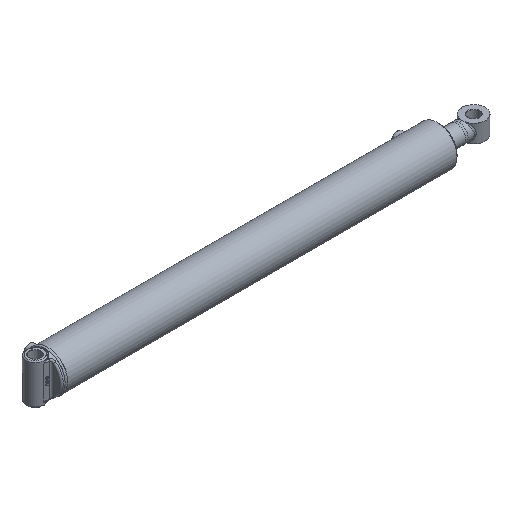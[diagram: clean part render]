
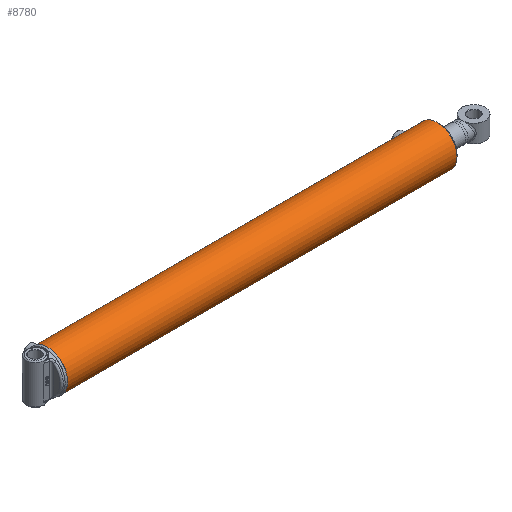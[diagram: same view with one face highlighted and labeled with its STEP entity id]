
A CAD part, isometric view. The second image highlights one B-rep face of the part: STEP entity #8780.
In plain terms, the highlighted cylindrical face has radius 56.356 mm (diameter 112.712 mm), a full revolution.
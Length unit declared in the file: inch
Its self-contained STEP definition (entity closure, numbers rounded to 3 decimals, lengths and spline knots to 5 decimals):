
#808=B_SPLINE_CURVE_WITH_KNOTS('',3,(#13133,#13134,#13135,#13136,#13137,
#13138,#13139,#13140,#13141,#13142),.UNSPECIFIED.,.F.,.F.,(4,2,2,2,4),(0.,
0.23942,0.47883,0.71824,0.95766),
 .UNSPECIFIED.);
#809=B_SPLINE_CURVE_WITH_KNOTS('',3,(#13143,#13144,#13145,#13146,#13147,
#13148,#13149,#13150,#13151,#13152,#13153,#13154,#13155,#13156,#13157,#13158,
#13159,#13160,#13161,#13162,#13163,#13164,#13165,#13166,#13167,#13168),
 .UNSPECIFIED.,.F.,.F.,(4,2,2,2,2,2,2,2,2,2,2,2,4),(0.95766,1.19707,
1.43649,1.6759,1.91532,2.15473,2.39415,
2.63356,2.87297,3.11239,3.3518,3.59122,
3.83063),.UNSPECIFIED.);
#810=B_SPLINE_CURVE_WITH_KNOTS('',3,(#13173,#13174,#13175,#13176,#13177,
#13178,#13179,#13180,#13181,#13182),.UNSPECIFIED.,.F.,.F.,(4,2,2,2,4),(0.,
0.23942,0.47883,0.71824,0.95766),
 .UNSPECIFIED.);
#811=B_SPLINE_CURVE_WITH_KNOTS('',3,(#13183,#13184,#13185,#13186,#13187,
#13188,#13189,#13190,#13191,#13192,#13193,#13194,#13195,#13196,#13197,#13198,
#13199,#13200,#13201,#13202,#13203,#13204,#13205,#13206,#13207,#13208),
 .UNSPECIFIED.,.F.,.F.,(4,2,2,2,2,2,2,2,2,2,2,2,4),(0.95766,1.19707,
1.43649,1.6759,1.91532,2.15473,2.39415,
2.63356,2.87297,3.11239,3.3518,3.59122,
3.83063),.UNSPECIFIED.);
#1096=FACE_BOUND('',#2595,.T.);
#1097=FACE_BOUND('',#2596,.T.);
#1352=LINE('',#13244,#1693);
#1693=VECTOR('',#10661,2.21875);
#2031=CYLINDRICAL_SURFACE('',#9525,2.21875);
#2119=FACE_OUTER_BOUND('',#2594,.T.);
#2594=EDGE_LOOP('',(#6139,#6140,#6141,#6142,#6143,#6144));
#2595=EDGE_LOOP('',(#6145,#6146));
#2596=EDGE_LOOP('',(#6147,#6148));
#3157=CIRCLE('',#9522,2.21875);
#3159=CIRCLE('',#9524,2.21875);
#3160=CIRCLE('',#9526,2.21875);
#3161=CIRCLE('',#9527,2.21875);
#3801=VERTEX_POINT('',#13130);
#3802=VERTEX_POINT('',#13132);
#3803=VERTEX_POINT('',#13170);
#3804=VERTEX_POINT('',#13172);
#3815=VERTEX_POINT('',#13237);
#3816=VERTEX_POINT('',#13238);
#3817=VERTEX_POINT('',#13243);
#3818=VERTEX_POINT('',#13245);
#4736=EDGE_CURVE('',#3802,#3801,#808,.T.);
#4737=EDGE_CURVE('',#3801,#3802,#809,.T.);
#4739=EDGE_CURVE('',#3804,#3803,#810,.T.);
#4740=EDGE_CURVE('',#3803,#3804,#811,.T.);
#4754=EDGE_CURVE('',#3815,#3816,#3157,.T.);
#4756=EDGE_CURVE('',#3816,#3815,#3159,.T.);
#4757=EDGE_CURVE('',#3815,#3817,#1352,.T.);
#4758=EDGE_CURVE('',#3818,#3817,#3160,.T.);
#4759=EDGE_CURVE('',#3817,#3818,#3161,.T.);
#6139=ORIENTED_EDGE('',*,*,#4754,.F.);
#6140=ORIENTED_EDGE('',*,*,#4757,.T.);
#6141=ORIENTED_EDGE('',*,*,#4758,.F.);
#6142=ORIENTED_EDGE('',*,*,#4759,.F.);
#6143=ORIENTED_EDGE('',*,*,#4757,.F.);
#6144=ORIENTED_EDGE('',*,*,#4756,.F.);
#6145=ORIENTED_EDGE('',*,*,#4736,.T.);
#6146=ORIENTED_EDGE('',*,*,#4737,.T.);
#6147=ORIENTED_EDGE('',*,*,#4739,.T.);
#6148=ORIENTED_EDGE('',*,*,#4740,.T.);
#8780=ADVANCED_FACE('',(#2119,#1096,#1097),#2031,.T.);
#9522=AXIS2_PLACEMENT_3D('',#13239,#10653,#10654);
#9524=AXIS2_PLACEMENT_3D('',#13241,#10657,#10658);
#9525=AXIS2_PLACEMENT_3D('',#13242,#10659,#10660);
#9526=AXIS2_PLACEMENT_3D('',#13246,#10662,#10663);
#9527=AXIS2_PLACEMENT_3D('',#13247,#10664,#10665);
#10653=DIRECTION('center_axis',(1.,0.,0.));
#10654=DIRECTION('ref_axis',(0.,-1.,0.));
#10657=DIRECTION('center_axis',(1.,0.,0.));
#10658=DIRECTION('ref_axis',(0.,-1.,0.));
#10659=DIRECTION('center_axis',(1.,0.,0.));
#10660=DIRECTION('ref_axis',(0.,-1.,0.));
#10661=DIRECTION('',(-1.,0.,0.));
#10662=DIRECTION('center_axis',(-1.,0.,0.));
#10663=DIRECTION('ref_axis',(0.,-1.,0.));
#10664=DIRECTION('center_axis',(-1.,0.,0.));
#10665=DIRECTION('ref_axis',(0.,-1.,0.));
#13130=CARTESIAN_POINT('',(0.75,0.,2.21875));
#13132=CARTESIAN_POINT('',(1.,-0.25,2.20462));
#13133=CARTESIAN_POINT('Ctrl Pts',(1.,-0.25,2.20462));
#13134=CARTESIAN_POINT('Ctrl Pts',(0.96858,-0.25,2.20462));
#13135=CARTESIAN_POINT('Ctrl Pts',(0.93509,-0.24372,
2.20536));
#13136=CARTESIAN_POINT('Ctrl Pts',(0.8735,-0.21819,
2.20803));
#13137=CARTESIAN_POINT('Ctrl Pts',(0.8454,-0.19896,
2.20992));
#13138=CARTESIAN_POINT('Ctrl Pts',(0.80104,-0.1546,
2.21347));
#13139=CARTESIAN_POINT('Ctrl Pts',(0.78181,-0.1265,
2.21536));
#13140=CARTESIAN_POINT('Ctrl Pts',(0.75628,-0.06491,
2.21801));
#13141=CARTESIAN_POINT('Ctrl Pts',(0.75,-0.03142,2.21875));
#13142=CARTESIAN_POINT('Ctrl Pts',(0.75,0.,2.21875));
#13143=CARTESIAN_POINT('Ctrl Pts',(0.75,0.,2.21875));
#13144=CARTESIAN_POINT('Ctrl Pts',(0.75,0.03142,2.21875));
#13145=CARTESIAN_POINT('Ctrl Pts',(0.75628,0.06491,2.21801));
#13146=CARTESIAN_POINT('Ctrl Pts',(0.78181,0.1265,
2.21536));
#13147=CARTESIAN_POINT('Ctrl Pts',(0.80104,0.1546,
2.21347));
#13148=CARTESIAN_POINT('Ctrl Pts',(0.8454,0.19896,
2.20992));
#13149=CARTESIAN_POINT('Ctrl Pts',(0.8735,0.21819,2.20803));
#13150=CARTESIAN_POINT('Ctrl Pts',(0.93509,0.24372,
2.20536));
#13151=CARTESIAN_POINT('Ctrl Pts',(0.96858,0.25,2.20462));
#13152=CARTESIAN_POINT('Ctrl Pts',(1.03142,0.25,2.20462));
#13153=CARTESIAN_POINT('Ctrl Pts',(1.06491,0.24372,2.20536));
#13154=CARTESIAN_POINT('Ctrl Pts',(1.1265,0.21819,2.20803));
#13155=CARTESIAN_POINT('Ctrl Pts',(1.1546,0.19896,2.20992));
#13156=CARTESIAN_POINT('Ctrl Pts',(1.19896,0.1546,2.21347));
#13157=CARTESIAN_POINT('Ctrl Pts',(1.21819,0.1265,2.21536));
#13158=CARTESIAN_POINT('Ctrl Pts',(1.24372,0.06491,2.21801));
#13159=CARTESIAN_POINT('Ctrl Pts',(1.25,0.03142,2.21875));
#13160=CARTESIAN_POINT('Ctrl Pts',(1.25,-0.03142,2.21875));
#13161=CARTESIAN_POINT('Ctrl Pts',(1.24372,-0.06491,
2.21801));
#13162=CARTESIAN_POINT('Ctrl Pts',(1.21819,-0.1265,
2.21536));
#13163=CARTESIAN_POINT('Ctrl Pts',(1.19896,-0.1546,
2.21347));
#13164=CARTESIAN_POINT('Ctrl Pts',(1.1546,-0.19896,
2.20992));
#13165=CARTESIAN_POINT('Ctrl Pts',(1.1265,-0.21819,2.20803));
#13166=CARTESIAN_POINT('Ctrl Pts',(1.06491,-0.24372,2.20536));
#13167=CARTESIAN_POINT('Ctrl Pts',(1.03142,-0.25,2.20462));
#13168=CARTESIAN_POINT('Ctrl Pts',(1.,-0.25,2.20462));
#13170=CARTESIAN_POINT('',(41.87,0.,2.21875));
#13172=CARTESIAN_POINT('',(42.12,-0.25,2.20462));
#13173=CARTESIAN_POINT('Ctrl Pts',(42.12,-0.25,2.20462));
#13174=CARTESIAN_POINT('Ctrl Pts',(42.08858,-0.25,
2.20462));
#13175=CARTESIAN_POINT('Ctrl Pts',(42.05509,-0.24372,
2.20536));
#13176=CARTESIAN_POINT('Ctrl Pts',(41.9935,-0.21819,
2.20803));
#13177=CARTESIAN_POINT('Ctrl Pts',(41.9654,-0.19896,
2.20992));
#13178=CARTESIAN_POINT('Ctrl Pts',(41.92104,-0.1546,
2.21347));
#13179=CARTESIAN_POINT('Ctrl Pts',(41.90181,-0.1265,
2.21536));
#13180=CARTESIAN_POINT('Ctrl Pts',(41.87628,-0.06491,
2.21801));
#13181=CARTESIAN_POINT('Ctrl Pts',(41.87,-0.03142,2.21875));
#13182=CARTESIAN_POINT('Ctrl Pts',(41.87,0.,2.21875));
#13183=CARTESIAN_POINT('Ctrl Pts',(41.87,0.,2.21875));
#13184=CARTESIAN_POINT('Ctrl Pts',(41.87,0.03142,2.21875));
#13185=CARTESIAN_POINT('Ctrl Pts',(41.87628,0.06491,
2.21801));
#13186=CARTESIAN_POINT('Ctrl Pts',(41.90181,0.1265,2.21536));
#13187=CARTESIAN_POINT('Ctrl Pts',(41.92104,0.1546,2.21347));
#13188=CARTESIAN_POINT('Ctrl Pts',(41.9654,0.19896,2.20992));
#13189=CARTESIAN_POINT('Ctrl Pts',(41.9935,0.21819,2.20803));
#13190=CARTESIAN_POINT('Ctrl Pts',(42.05509,0.24372,2.20536));
#13191=CARTESIAN_POINT('Ctrl Pts',(42.08858,0.25,2.20462));
#13192=CARTESIAN_POINT('Ctrl Pts',(42.15142,0.25,2.20462));
#13193=CARTESIAN_POINT('Ctrl Pts',(42.18491,0.24372,2.20536));
#13194=CARTESIAN_POINT('Ctrl Pts',(42.2465,0.21819,2.20803));
#13195=CARTESIAN_POINT('Ctrl Pts',(42.2746,0.19896,2.20992));
#13196=CARTESIAN_POINT('Ctrl Pts',(42.31896,0.1546,2.21347));
#13197=CARTESIAN_POINT('Ctrl Pts',(42.33819,0.1265,2.21536));
#13198=CARTESIAN_POINT('Ctrl Pts',(42.36372,0.06491,
2.21801));
#13199=CARTESIAN_POINT('Ctrl Pts',(42.37,0.03142,2.21875));
#13200=CARTESIAN_POINT('Ctrl Pts',(42.37,-0.03142,2.21875));
#13201=CARTESIAN_POINT('Ctrl Pts',(42.36372,-0.06491,
2.21801));
#13202=CARTESIAN_POINT('Ctrl Pts',(42.33819,-0.1265,
2.21536));
#13203=CARTESIAN_POINT('Ctrl Pts',(42.31896,-0.1546,
2.21347));
#13204=CARTESIAN_POINT('Ctrl Pts',(42.2746,-0.19896,
2.20992));
#13205=CARTESIAN_POINT('Ctrl Pts',(42.2465,-0.21819,
2.20803));
#13206=CARTESIAN_POINT('Ctrl Pts',(42.18491,-0.24372,
2.20536));
#13207=CARTESIAN_POINT('Ctrl Pts',(42.15142,-0.25,
2.20462));
#13208=CARTESIAN_POINT('Ctrl Pts',(42.12,-0.25,2.20462));
#13237=CARTESIAN_POINT('',(43.61,2.21875,0.));
#13238=CARTESIAN_POINT('',(43.61,0.,-2.21875));
#13239=CARTESIAN_POINT('Origin',(43.61,0.,0.));
#13241=CARTESIAN_POINT('Origin',(43.61,0.,0.));
#13242=CARTESIAN_POINT('Origin',(0.,0.,0.));
#13243=CARTESIAN_POINT('',(0.11186,2.21875,0.));
#13244=CARTESIAN_POINT('',(0.,2.21875,0.));
#13245=CARTESIAN_POINT('',(0.11186,0.,2.21875));
#13246=CARTESIAN_POINT('Origin',(0.11186,0.,0.));
#13247=CARTESIAN_POINT('Origin',(0.11186,0.,0.));
